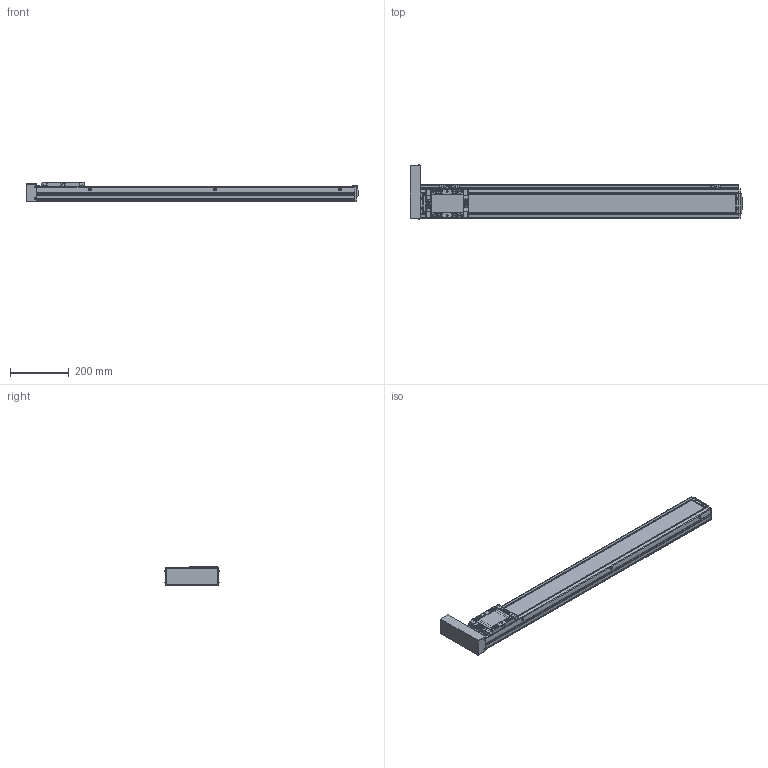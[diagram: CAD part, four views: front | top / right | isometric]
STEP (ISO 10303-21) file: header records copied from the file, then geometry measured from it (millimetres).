
FILE_DESCRIPTION(('STEP AP214'),'1');
FILE_NAME('Z:/Web/3D/SAN100/SAN100 양산용 (STEP)/SAN100ㅁㅁ-900PL+3SL.stp','2013-04-30T04:33:06',(' '),(' '),'Spatial InterOp 3D',' ',' ');
FILE_SCHEMA(('automotive_design'));
Length unit declared in the file: millimetre
Products named in the file (51): BTCV-SAN65; BHCS M3 X 6L; SUS COVER; SFX-SAN100; RRCV-SAN100; 스크루 : Round - M4.0 x 10.0; M3.0 x 6.0; 스크루 : Round - M3.0 x 6.0; FRBL-SAN100; SLBL-SAN100; SLCV-SAN100; 스크루 : Countersunk - M3.0 x 6.0; BASE; 스크루 : Round - M5.0 x 6.0; SGD-SAN100; SRL-16x17-380L; EE-SX674; SBK-SX674-352
Bounding box: 1126.5 x 184.13 x 66 mm (x, y, z)
Volume: 3365627.1 mm3; surface area: 866666.6 mm2
Topology: 51 solids, 52 shells, 2507 faces, 6542 edges, 4227 vertices
Faces by surface type: plane 1314, cylinder 877, cone 214, sphere 68, torus 18, bspline 16
Entity records: 99016 total; most frequent: CARTESIAN_POINT 14901, DIRECTION 13765, ORIENTED_EDGE 12872, EDGE_CURVE 6436, AXIS2_PLACEMENT_3D 4904, VERTEX_POINT 4227, LINE 3957, VECTOR 3957
